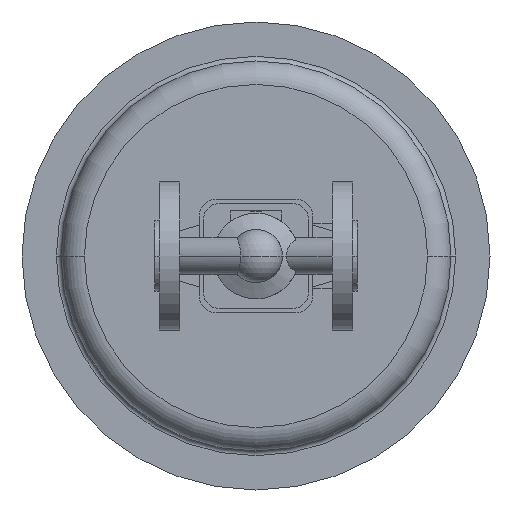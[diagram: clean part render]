
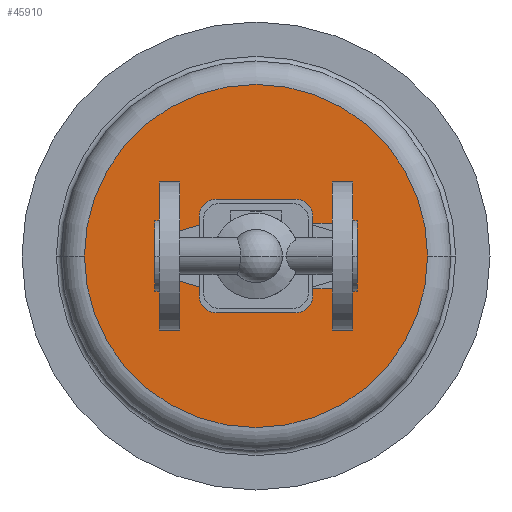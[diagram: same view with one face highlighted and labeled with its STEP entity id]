
A CAD part, front view. The second image highlights one B-rep face of the part: STEP entity #45910.
In plain terms, the highlighted planar face has unit normal (0, -1, 0).
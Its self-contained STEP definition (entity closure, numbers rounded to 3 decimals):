
#45090=CARTESIAN_POINT('',(83.45,533.,0.));
#45100=VERTEX_POINT('',#45090);
#45130=CARTESIAN_POINT('',(65.,533.,0.));
#45140=DIRECTION('',(0.,1.,0.));
#45150=DIRECTION('',(1.,0.,0.));
#45160=AXIS2_PLACEMENT_3D('',#45130,#45140,#45150);
#45170=CIRCLE('',#45160,18.45);
#45180=CARTESIAN_POINT('',(46.55,533.,0.));
#45190=VERTEX_POINT('',#45180);
#45200=EDGE_CURVE('',#45100,#45190,#45170,.T.);
#45320=CARTESIAN_POINT('',(120.,533.,0.));
#45330=DIRECTION('',(0.,-1.,0.));
#45340=DIRECTION('',(-1.,0.,0.));
#45350=AXIS2_PLACEMENT_3D('',#45320,#45330,#45340);
#45360=PLANE('',#45350);
#45370=ORIENTED_EDGE('',*,*,#45200,.T.);
#45380=EDGE_CURVE('',#45190,#45100,#45170,.T.);
#45390=ORIENTED_EDGE('',*,*,#45380,.T.);
#45400=EDGE_LOOP('',(#45390,#45370));
#45410=FACE_BOUND('',#45400,.T.);
#45420=CARTESIAN_POINT('',(15.,533.,0.));
#45430=DIRECTION('',(0.,1.,0.));
#45440=DIRECTION('',(1.,0.,0.));
#45450=AXIS2_PLACEMENT_3D('',#45420,#45430,#45440);
#45460=CIRCLE('',#45450,15.);
#45470=CARTESIAN_POINT('',(30.,533.,0.));
#45480=VERTEX_POINT('',#45470);
#45490=CARTESIAN_POINT('',(0.,533.,0.));
#45500=VERTEX_POINT('',#45490);
#45510=EDGE_CURVE('',#45480,#45500,#45460,.T.);
#45520=ORIENTED_EDGE('',*,*,#45510,.T.);
#45530=EDGE_CURVE('',#45500,#45480,#45460,.T.);
#45540=ORIENTED_EDGE('',*,*,#45530,.T.);
#45550=EDGE_LOOP('',(#45540,#45520));
#45560=FACE_BOUND('',#45550,.T.);
#45570=CARTESIAN_POINT('',(115.,533.,0.));
#45580=DIRECTION('',(0.,1.,0.));
#45590=DIRECTION('',(1.,0.,0.));
#45600=AXIS2_PLACEMENT_3D('',#45570,#45580,#45590);
#45610=CIRCLE('',#45600,15.);
#45620=CARTESIAN_POINT('',(100.,533.,0.));
#45630=VERTEX_POINT('',#45620);
#45640=CARTESIAN_POINT('',(130.,533.,0.));
#45650=VERTEX_POINT('',#45640);
#45660=EDGE_CURVE('',#45630,#45650,#45610,.T.);
#45670=ORIENTED_EDGE('',*,*,#45660,.T.);
#45680=EDGE_CURVE('',#45650,#45630,#45610,.T.);
#45690=ORIENTED_EDGE('',*,*,#45680,.T.);
#45700=EDGE_LOOP('',(#45690,#45670));
#45710=FACE_BOUND('',#45700,.T.);
#45720=CARTESIAN_POINT('',(65.,533.,0.));
#45730=DIRECTION('',(0.,1.,0.));
#45740=DIRECTION('',(1.,0.,0.));
#45750=AXIS2_PLACEMENT_3D('',#45720,#45730,#45740);
#45760=CIRCLE('',#45750,110.);
#45770=CARTESIAN_POINT('',(65.,533.,-110.));
#45780=VERTEX_POINT('',#45770);
#45790=CARTESIAN_POINT('',(-45.,533.,0.));
#45800=VERTEX_POINT('',#45790);
#45810=EDGE_CURVE('',#45780,#45800,#45760,.T.);
#45820=ORIENTED_EDGE('',*,*,#45810,.F.);
#45830=CARTESIAN_POINT('',(175.,533.,0.));
#45840=VERTEX_POINT('',#45830);
#45850=EDGE_CURVE('',#45800,#45840,#45760,.T.);
#45860=ORIENTED_EDGE('',*,*,#45850,.F.);
#45870=EDGE_CURVE('',#45840,#45780,#45760,.T.);
#45880=ORIENTED_EDGE('',*,*,#45870,.F.);
#45890=EDGE_LOOP('',(#45880,#45860,#45820));
#45900=FACE_OUTER_BOUND('',#45890,.T.);
#45910=ADVANCED_FACE('',(#45410,#45560,#45710,#45900),#45360,.T.);
